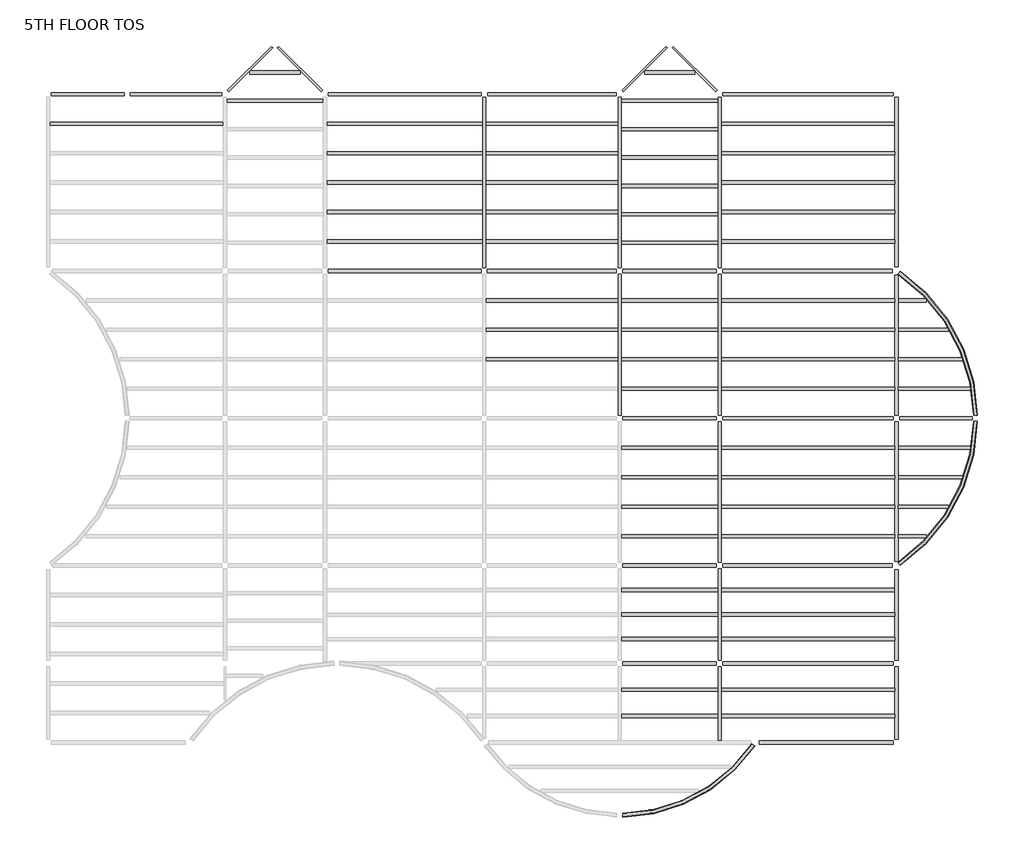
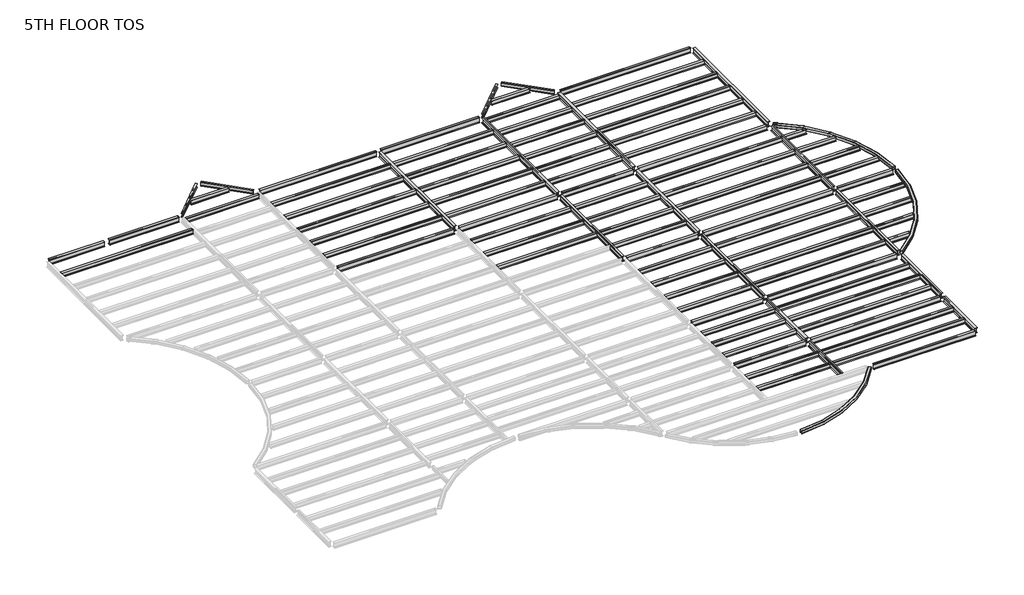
# One storey, part 2 of 2: 99 beams.
"""IFC4 building model written with IfcOpenShell, lengths in millimetres."""

from ifc_helpers import new_model, si_unit, origin, place, context, project, spatial, transform, mapped, element, save
from components import m_hss_square_hss203_2x203_2x9_5_28e91a4e, m_hss_square_hss203_2x203_2x9_5_f31329aa, m_hss_square_hss203_2x203_2x9_5_63507dff, ub_universal_beams_ub254x102x28_7812688d, ub_universal_beams_ub254x102x28_4a38c177, ub_universal_beams_ub305x165x40_c4d0385b, ub_universal_beams_ub305x165x40_19965e16, ub_universal_beams_ub305x165x40_d3abc31d, ub_universal_beams_ub305x165x40_0c73730f, ub_universal_beams_ub305x165x40_2a963f0c, ub_universal_beams_ub305x165x40_9ce7f2ee, ub_universal_beams_ub305x165x40_d184adfd, ub_universal_beams_ub305x165x40_bc7dc938, ub_universal_beams_ub305x165x40_b4233d25, ub_universal_beams_ub356x171x51_c708c058, ub_universal_beams_ub356x171x51_ef72dcdd, ub_universal_beams_ub356x171x51_10b3c54f, ub_universal_beams_ub356x171x51_4c9fd821, ub_universal_beams_ub356x171x51_d1a87c3c, ub_universal_beams_ub356x171x51_fa75724b, ub_universal_beams_ub356x171x51_68db896e, ub_universal_beams_ub356x171x51_c634c4a6, ub_universal_beams_ub356x171x51_995f1560, ub_universal_beams_ub356x171x51_dfc36663, ub_universal_beams_ub356x171x51_11d6b780, ub_universal_beams_ub356x171x51_76b2d20b, ub_universal_beams_ub356x171x51_145ecd4b, ub_universal_beams_ub356x171x51_c7dff8d2, ub_universal_beams_ub356x171x51_8a345439, ub_universal_beams_ub356x171x51_6da510e9, ub_universal_beams_ub356x171x51_e97f8d2e, ub_universal_beams_ub356x171x51_a38b99de, ub_universal_beams_ub356x171x51_d8f4cdde, ub_universal_beams_ub356x171x51_475301e6, ub_universal_beams_ub356x171x51_c03c70fb, ub_universal_beams_ub356x171x51_741bae58

model = new_model("IFC4")

# Units and contexts
model_context = context("Model", 3, world=origin())
ifc_project = project(units=[si_unit("LENGTHUNIT", "METRE", prefix="MILLI")], contexts=[model_context])

# Site, building, storey
site = spatial("IfcSite", under=ifc_project)
building = spatial("IfcBuilding", under=site)
storey = spatial("IfcBuildingStorey", under=building, Name="5TH FLOOR TOS", Elevation=22707.6)

# Beams
placement = place(None, origin())
m_hss_square_hss203_2x203_2x9_5_shape = m_hss_square_hss203_2x203_2x9_5_28e91a4e(model_context)
element("IfcBeam", 1, ObjectType="M_HSS Square : HSS203.2X203.2X9.5", at=placement, inside=storey, context=model_context, shape_type="MappedRepresentation", body=[
    mapped(m_hss_square_hss203_2x203_2x9_5_shape, transform((44027.575, 24539.575, 22606.1), x_axis=(0.8332810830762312, -0.5528495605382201, 0.0), y_axis=(0.5528495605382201, 0.8332810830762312, 0.0), z_axis=(0.0, 0.0, 1.0))),
])
m_hss_square_hss203_2x203_2x9_5_2_shape = m_hss_square_hss203_2x203_2x9_5_f31329aa(model_context)
element("IfcBeam", 2, ObjectType="M_HSS Square : HSS203.2X203.2X9.5", at=placement, inside=storey, context=model_context, shape_type="MappedRepresentation", body=[
    mapped(m_hss_square_hss203_2x203_2x9_5_2_shape, transform((44027.575, 9299.575, 22606.1), x_axis=(0.8332810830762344, 0.5528495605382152, 0.0), y_axis=(-0.5528495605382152, 0.8332810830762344, 0.0), z_axis=(0.0, 0.0, 1.0))),
])
m_hss_square_hss203_2x203_2x9_5_3_shape = m_hss_square_hss203_2x203_2x9_5_63507dff(model_context)
element("IfcBeam", 3, ObjectType="M_HSS Square : HSS203.2X203.2X9.5", at=placement, inside=storey, context=model_context, shape_type="MappedRepresentation", body=[
    mapped(m_hss_square_hss203_2x203_2x9_5_3_shape, transform((36716.575, 155.575, 22606.1), x_axis=(-0.5530174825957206, -0.8331696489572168, 0.0), y_axis=(0.8331696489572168, -0.5530174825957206, 0.0), z_axis=(0.0, 0.0, 1.0))),
])
ub_universal_beams_ub254x102x28_shape = ub_universal_beams_ub254x102x28_7812688d(model_context)
element("IfcBeam", 4, ObjectType="UB-Universal Beams : UB254x102x28", at=placement, inside=storey, context=model_context, shape_type="MappedRepresentation", body=[
    mapped(ub_universal_beams_ub254x102x28_shape, transform((10592.575, 34976.575, 22577.4), x_axis=(0.7071067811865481, 0.7071067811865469, 0.0), y_axis=(-0.7071067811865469, 0.7071067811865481, 0.0), z_axis=(0.0, 0.0, 1.0))),
])
element("IfcBeam", 5, ObjectType="UB-Universal Beams : UB254x102x28", at=placement, inside=storey, context=model_context, shape_type="MappedRepresentation", body=[
    mapped(ub_universal_beams_ub254x102x28_shape, transform((31004.575, 34976.575, 22577.4), x_axis=(0.7071067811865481, 0.7071067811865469, 0.0), y_axis=(-0.7071067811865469, 0.7071067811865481, 0.0), z_axis=(0.0, 0.0, 1.0))),
])
ub_universal_beams_ub254x102x28_2_shape = ub_universal_beams_ub254x102x28_4a38c177(model_context)
element("IfcBeam", 6, ObjectType="UB-Universal Beams : UB254x102x28", at=placement, inside=storey, context=model_context, shape_type="MappedRepresentation", body=[
    mapped(ub_universal_beams_ub254x102x28_2_shape, transform((13178.575, 34976.575, 22577.4), x_axis=(0.707106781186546, -0.707106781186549, 0.0), y_axis=(0.707106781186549, 0.707106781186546, 0.0), z_axis=(0.0, 0.0, 1.0))),
])
element("IfcBeam", 7, ObjectType="UB-Universal Beams : UB254x102x28", at=placement, inside=storey, context=model_context, shape_type="MappedRepresentation", body=[
    mapped(ub_universal_beams_ub254x102x28_2_shape, transform((33590.575, 34976.575, 22577.4), x_axis=(0.7071067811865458, -0.7071067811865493, 0.0), y_axis=(0.7071067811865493, 0.7071067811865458, 0.0), z_axis=(0.0, 0.0, 1.0))),
])
ub_universal_beams_ub305x165x40_shape = ub_universal_beams_ub305x165x40_c4d0385b(model_context)
element("IfcBeam", 8, ObjectType="UB-Universal Beams : UB305x165x40", at=placement, inside=storey, context=model_context, shape_type="MappedRepresentation", body=[
    mapped(ub_universal_beams_ub305x165x40_shape, transform((4727.575, 32159.575, 22555.9), x_axis=(1.0, 0.0, 0.0), y_axis=(0.0, 1.0, 0.0), z_axis=(0.0, 0.0, 1.0))),
])
element("IfcBeam", 9, ObjectType="UB-Universal Beams : UB305x165x40", at=placement, inside=storey, context=model_context, shape_type="MappedRepresentation", body=[
    mapped(ub_universal_beams_ub305x165x40_shape, transform((39455.575, 32159.575, 22555.9), x_axis=(1.0, 0.0, 0.0), y_axis=(0.0, 1.0, 0.0), z_axis=(0.0, 0.0, 1.0))),
])
element("IfcBeam", 10, ObjectType="UB-Universal Beams : UB305x165x40", at=placement, inside=storey, context=model_context, shape_type="MappedRepresentation", body=[
    mapped(ub_universal_beams_ub305x165x40_shape, transform((39455.575, 30635.575, 22555.9), x_axis=(1.0, 0.0, 0.0), y_axis=(0.0, 1.0, 0.0), z_axis=(0.0, 0.0, 1.0))),
])
element("IfcBeam", 11, ObjectType="UB-Universal Beams : UB305x165x40", at=placement, inside=storey, context=model_context, shape_type="MappedRepresentation", body=[
    mapped(ub_universal_beams_ub305x165x40_shape, transform((39455.575, 29111.575, 22555.9), x_axis=(1.0, 0.0, 0.0), y_axis=(0.0, 1.0, 0.0), z_axis=(0.0, 0.0, 1.0))),
])
element("IfcBeam", 12, ObjectType="UB-Universal Beams : UB305x165x40", at=placement, inside=storey, context=model_context, shape_type="MappedRepresentation", body=[
    mapped(ub_universal_beams_ub305x165x40_shape, transform((39455.575, 27587.575, 22555.9), x_axis=(1.0, 0.0, 0.0), y_axis=(0.0, 1.0, 0.0), z_axis=(0.0, 0.0, 1.0))),
])
element("IfcBeam", 13, ObjectType="UB-Universal Beams : UB305x165x40", at=placement, inside=storey, context=model_context, shape_type="MappedRepresentation", body=[
    mapped(ub_universal_beams_ub305x165x40_shape, transform((39455.575, 26063.575, 22555.9), x_axis=(1.0, 0.0, 0.0), y_axis=(0.0, 1.0, 0.0), z_axis=(0.0, 0.0, 1.0))),
])
element("IfcBeam", 14, ObjectType="UB-Universal Beams : UB305x165x40", at=placement, inside=storey, context=model_context, shape_type="MappedRepresentation", body=[
    mapped(ub_universal_beams_ub305x165x40_shape, transform((39455.575, 23015.575, 22555.9), x_axis=(1.0, 0.0, 0.0), y_axis=(0.0, 1.0, 0.0), z_axis=(0.0, 0.0, 1.0))),
])
element("IfcBeam", 15, ObjectType="UB-Universal Beams : UB305x165x40", at=placement, inside=storey, context=model_context, shape_type="MappedRepresentation", body=[
    mapped(ub_universal_beams_ub305x165x40_shape, transform((39455.575, 21491.575, 22555.9), x_axis=(1.0, 0.0, 0.0), y_axis=(0.0, 1.0, 0.0), z_axis=(0.0, 0.0, 1.0))),
])
element("IfcBeam", 16, ObjectType="UB-Universal Beams : UB305x165x40", at=placement, inside=storey, context=model_context, shape_type="MappedRepresentation", body=[
    mapped(ub_universal_beams_ub305x165x40_shape, transform((39455.575, 19967.575, 22555.9), x_axis=(1.0, 0.0, 0.0), y_axis=(0.0, 1.0, 0.0), z_axis=(0.0, 0.0, 1.0))),
])
element("IfcBeam", 17, ObjectType="UB-Universal Beams : UB305x165x40", at=placement, inside=storey, context=model_context, shape_type="MappedRepresentation", body=[
    mapped(ub_universal_beams_ub305x165x40_shape, transform((39455.575, 18443.575, 22555.9), x_axis=(1.0, 0.0, 0.0), y_axis=(0.0, 1.0, 0.0), z_axis=(0.0, 0.0, 1.0))),
])
element("IfcBeam", 18, ObjectType="UB-Universal Beams : UB305x165x40", at=placement, inside=storey, context=model_context, shape_type="MappedRepresentation", body=[
    mapped(ub_universal_beams_ub305x165x40_shape, transform((39455.575, 15395.575, 22555.9), x_axis=(1.0, 0.0, 0.0), y_axis=(0.0, 1.0, 0.0), z_axis=(0.0, 0.0, 1.0))),
])
element("IfcBeam", 19, ObjectType="UB-Universal Beams : UB305x165x40", at=placement, inside=storey, context=model_context, shape_type="MappedRepresentation", body=[
    mapped(ub_universal_beams_ub305x165x40_shape, transform((39455.575, 13871.575, 22555.9), x_axis=(1.0, 0.0, 0.0), y_axis=(0.0, 1.0, 0.0), z_axis=(0.0, 0.0, 1.0))),
])
element("IfcBeam", 20, ObjectType="UB-Universal Beams : UB305x165x40", at=placement, inside=storey, context=model_context, shape_type="MappedRepresentation", body=[
    mapped(ub_universal_beams_ub305x165x40_shape, transform((39455.575, 12347.575, 22555.9), x_axis=(1.0, 0.0, 0.0), y_axis=(0.0, 1.0, 0.0), z_axis=(0.0, 0.0, 1.0))),
])
element("IfcBeam", 21, ObjectType="UB-Universal Beams : UB305x165x40", at=placement, inside=storey, context=model_context, shape_type="MappedRepresentation", body=[
    mapped(ub_universal_beams_ub305x165x40_shape, transform((39455.575, 10823.575, 22555.9), x_axis=(1.0, 0.0, 0.0), y_axis=(0.0, 1.0, 0.0), z_axis=(0.0, 0.0, 1.0))),
])
element("IfcBeam", 22, ObjectType="UB-Universal Beams : UB305x165x40", at=placement, inside=storey, context=model_context, shape_type="MappedRepresentation", body=[
    mapped(ub_universal_beams_ub305x165x40_shape, transform((39455.575, 5508.325, 22555.9), x_axis=(-1.0, 0.0, 0.0), y_axis=(0.0, -1.0, 0.0), z_axis=(0.0, 0.0, 1.0))),
])
element("IfcBeam", 23, ObjectType="UB-Universal Beams : UB305x165x40", at=placement, inside=storey, context=model_context, shape_type="MappedRepresentation", body=[
    mapped(ub_universal_beams_ub305x165x40_shape, transform((39455.575, 6772.075, 22555.9), x_axis=(-1.0, 0.0, 0.0), y_axis=(0.0, -1.0, 0.0), z_axis=(0.0, 0.0, 1.0))),
])
element("IfcBeam", 24, ObjectType="UB-Universal Beams : UB305x165x40", at=placement, inside=storey, context=model_context, shape_type="MappedRepresentation", body=[
    mapped(ub_universal_beams_ub305x165x40_shape, transform((39455.575, 8035.825, 22555.9), x_axis=(-1.0, 0.0, 0.0), y_axis=(0.0, -1.0, 0.0), z_axis=(0.0, 0.0, 1.0))),
])
element("IfcBeam", 25, ObjectType="UB-Universal Beams : UB305x165x40", at=placement, inside=storey, context=model_context, shape_type="MappedRepresentation", body=[
    mapped(ub_universal_beams_ub305x165x40_shape, transform((39455.575, 1518.575, 22555.9), x_axis=(-1.0, 0.0, 0.0), y_axis=(0.0, -1.0, 0.0), z_axis=(0.0, 0.0, 1.0))),
])
element("IfcBeam", 26, ObjectType="UB-Universal Beams : UB305x165x40", at=placement, inside=storey, context=model_context, shape_type="MappedRepresentation", body=[
    mapped(ub_universal_beams_ub305x165x40_shape, transform((39455.575, 2881.575, 22555.9), x_axis=(-1.0, 0.0, 0.0), y_axis=(0.0, -1.0, 0.0), z_axis=(0.0, 0.0, 1.0))),
])
ub_universal_beams_ub305x165x40_2_shape = ub_universal_beams_ub305x165x40_19965e16(model_context)
element("IfcBeam", 27, ObjectType="UB-Universal Beams : UB305x165x40", at=placement, inside=storey, context=model_context, shape_type="MappedRepresentation", body=[
    mapped(ub_universal_beams_ub305x165x40_2_shape, transform((11885.575, 34803.325, 22555.9), x_axis=(1.0, 0.0, 0.0), y_axis=(0.0, 1.0, 0.0), z_axis=(0.0, 0.0, 1.0))),
])
element("IfcBeam", 28, ObjectType="UB-Universal Beams : UB305x165x40", at=placement, inside=storey, context=model_context, shape_type="MappedRepresentation", body=[
    mapped(ub_universal_beams_ub305x165x40_2_shape, transform((32297.575, 34803.325, 22555.9), x_axis=(1.0, 0.0, 0.0), y_axis=(0.0, 1.0, 0.0), z_axis=(0.0, 0.0, 1.0))),
])
ub_universal_beams_ub305x165x40_3_shape = ub_universal_beams_ub305x165x40_d3abc31d(model_context)
element("IfcBeam", 29, ObjectType="UB-Universal Beams : UB305x165x40", at=placement, inside=storey, context=model_context, shape_type="MappedRepresentation", body=[
    mapped(ub_universal_beams_ub305x165x40_3_shape, transform((11885.575, 33337.075, 22555.9), x_axis=(1.0, 0.0, 0.0), y_axis=(0.0, 1.0, 0.0), z_axis=(0.0, 0.0, 1.0))),
])
element("IfcBeam", 30, ObjectType="UB-Universal Beams : UB305x165x40", at=placement, inside=storey, context=model_context, shape_type="MappedRepresentation", body=[
    mapped(ub_universal_beams_ub305x165x40_3_shape, transform((32297.575, 33337.075, 22555.9), x_axis=(1.0, 0.0, 0.0), y_axis=(0.0, 1.0, 0.0), z_axis=(0.0, 0.0, 1.0))),
])
element("IfcBeam", 31, ObjectType="UB-Universal Beams : UB305x165x40", at=placement, inside=storey, context=model_context, shape_type="MappedRepresentation", body=[
    mapped(ub_universal_beams_ub305x165x40_3_shape, transform((32297.575, 31870.825, 22555.9), x_axis=(1.0, 0.0, 0.0), y_axis=(0.0, 1.0, 0.0), z_axis=(0.0, 0.0, 1.0))),
])
element("IfcBeam", 32, ObjectType="UB-Universal Beams : UB305x165x40", at=placement, inside=storey, context=model_context, shape_type="MappedRepresentation", body=[
    mapped(ub_universal_beams_ub305x165x40_3_shape, transform((32297.575, 30404.575, 22555.9), x_axis=(1.0, 0.0, 0.0), y_axis=(0.0, 1.0, 0.0), z_axis=(0.0, 0.0, 1.0))),
])
element("IfcBeam", 33, ObjectType="UB-Universal Beams : UB305x165x40", at=placement, inside=storey, context=model_context, shape_type="MappedRepresentation", body=[
    mapped(ub_universal_beams_ub305x165x40_3_shape, transform((32297.575, 28938.325, 22555.9), x_axis=(1.0, 0.0, 0.0), y_axis=(0.0, 1.0, 0.0), z_axis=(0.0, 0.0, 1.0))),
])
element("IfcBeam", 34, ObjectType="UB-Universal Beams : UB305x165x40", at=placement, inside=storey, context=model_context, shape_type="MappedRepresentation", body=[
    mapped(ub_universal_beams_ub305x165x40_3_shape, transform((32297.575, 27472.075, 22555.9), x_axis=(1.0, 0.0, 0.0), y_axis=(0.0, 1.0, 0.0), z_axis=(0.0, 0.0, 1.0))),
])
element("IfcBeam", 35, ObjectType="UB-Universal Beams : UB305x165x40", at=placement, inside=storey, context=model_context, shape_type="MappedRepresentation", body=[
    mapped(ub_universal_beams_ub305x165x40_3_shape, transform((32297.575, 26005.825, 22555.9), x_axis=(1.0, 0.0, 0.0), y_axis=(0.0, 1.0, 0.0), z_axis=(0.0, 0.0, 1.0))),
])
element("IfcBeam", 36, ObjectType="UB-Universal Beams : UB305x165x40", at=placement, inside=storey, context=model_context, shape_type="MappedRepresentation", body=[
    mapped(ub_universal_beams_ub305x165x40_3_shape, transform((32297.575, 1518.575, 22555.9), x_axis=(-1.0, 0.0, 0.0), y_axis=(0.0, -1.0, 0.0), z_axis=(0.0, 0.0, 1.0))),
])
element("IfcBeam", 37, ObjectType="UB-Universal Beams : UB305x165x40", at=placement, inside=storey, context=model_context, shape_type="MappedRepresentation", body=[
    mapped(ub_universal_beams_ub305x165x40_3_shape, transform((32297.575, 2881.575, 22555.9), x_axis=(-1.0, 0.0, 0.0), y_axis=(0.0, -1.0, 0.0), z_axis=(0.0, 0.0, 1.0))),
])
element("IfcBeam", 38, ObjectType="UB-Universal Beams : UB305x165x40", at=placement, inside=storey, context=model_context, shape_type="MappedRepresentation", body=[
    mapped(ub_universal_beams_ub305x165x40_3_shape, transform((32297.575, 5508.325, 22555.9), x_axis=(-1.0, 0.0, 0.0), y_axis=(0.0, -1.0, 0.0), z_axis=(0.0, 0.0, 1.0))),
])
element("IfcBeam", 39, ObjectType="UB-Universal Beams : UB305x165x40", at=placement, inside=storey, context=model_context, shape_type="MappedRepresentation", body=[
    mapped(ub_universal_beams_ub305x165x40_3_shape, transform((32297.575, 6772.075, 22555.9), x_axis=(-1.0, 0.0, 0.0), y_axis=(0.0, -1.0, 0.0), z_axis=(0.0, 0.0, 1.0))),
])
element("IfcBeam", 40, ObjectType="UB-Universal Beams : UB305x165x40", at=placement, inside=storey, context=model_context, shape_type="MappedRepresentation", body=[
    mapped(ub_universal_beams_ub305x165x40_3_shape, transform((32297.575, 8035.825, 22555.9), x_axis=(-1.0, 0.0, 0.0), y_axis=(0.0, -1.0, 0.0), z_axis=(0.0, 0.0, 1.0))),
])
element("IfcBeam", 41, ObjectType="UB-Universal Beams : UB305x165x40", at=placement, inside=storey, context=model_context, shape_type="MappedRepresentation", body=[
    mapped(ub_universal_beams_ub305x165x40_3_shape, transform((32297.575, 15395.575, 22555.9), x_axis=(1.0, 0.0, 0.0), y_axis=(0.0, 1.0, 0.0), z_axis=(0.0, 0.0, 1.0))),
])
element("IfcBeam", 42, ObjectType="UB-Universal Beams : UB305x165x40", at=placement, inside=storey, context=model_context, shape_type="MappedRepresentation", body=[
    mapped(ub_universal_beams_ub305x165x40_3_shape, transform((32297.575, 13871.575, 22555.9), x_axis=(1.0, 0.0, 0.0), y_axis=(0.0, 1.0, 0.0), z_axis=(0.0, 0.0, 1.0))),
])
element("IfcBeam", 43, ObjectType="UB-Universal Beams : UB305x165x40", at=placement, inside=storey, context=model_context, shape_type="MappedRepresentation", body=[
    mapped(ub_universal_beams_ub305x165x40_3_shape, transform((32297.575, 12347.575, 22555.9), x_axis=(1.0, 0.0, 0.0), y_axis=(0.0, 1.0, 0.0), z_axis=(0.0, 0.0, 1.0))),
])
element("IfcBeam", 44, ObjectType="UB-Universal Beams : UB305x165x40", at=placement, inside=storey, context=model_context, shape_type="MappedRepresentation", body=[
    mapped(ub_universal_beams_ub305x165x40_3_shape, transform((32297.575, 10823.575, 22555.9), x_axis=(1.0, 0.0, 0.0), y_axis=(0.0, 1.0, 0.0), z_axis=(0.0, 0.0, 1.0))),
])
element("IfcBeam", 45, ObjectType="UB-Universal Beams : UB305x165x40", at=placement, inside=storey, context=model_context, shape_type="MappedRepresentation", body=[
    mapped(ub_universal_beams_ub305x165x40_3_shape, transform((32297.575, 23015.575, 22555.9), x_axis=(1.0, 0.0, 0.0), y_axis=(0.0, 1.0, 0.0), z_axis=(0.0, 0.0, 1.0))),
])
element("IfcBeam", 46, ObjectType="UB-Universal Beams : UB305x165x40", at=placement, inside=storey, context=model_context, shape_type="MappedRepresentation", body=[
    mapped(ub_universal_beams_ub305x165x40_3_shape, transform((32297.575, 21491.575, 22555.9), x_axis=(1.0, 0.0, 0.0), y_axis=(0.0, 1.0, 0.0), z_axis=(0.0, 0.0, 1.0))),
])
element("IfcBeam", 47, ObjectType="UB-Universal Beams : UB305x165x40", at=placement, inside=storey, context=model_context, shape_type="MappedRepresentation", body=[
    mapped(ub_universal_beams_ub305x165x40_3_shape, transform((32297.575, 19967.575, 22555.9), x_axis=(1.0, 0.0, 0.0), y_axis=(0.0, 1.0, 0.0), z_axis=(0.0, 0.0, 1.0))),
])
element("IfcBeam", 48, ObjectType="UB-Universal Beams : UB305x165x40", at=placement, inside=storey, context=model_context, shape_type="MappedRepresentation", body=[
    mapped(ub_universal_beams_ub305x165x40_3_shape, transform((32297.575, 18443.575, 22555.9), x_axis=(1.0, 0.0, 0.0), y_axis=(0.0, 1.0, 0.0), z_axis=(0.0, 0.0, 1.0))),
])
ub_universal_beams_ub305x165x40_4_shape = ub_universal_beams_ub305x165x40_0c73730f(model_context)
element("IfcBeam", 49, ObjectType="UB-Universal Beams : UB305x165x40", at=placement, inside=storey, context=model_context, shape_type="MappedRepresentation", body=[
    mapped(ub_universal_beams_ub305x165x40_4_shape, transform((18591.075, 32159.575, 22555.9), x_axis=(1.0, 0.0, 0.0), y_axis=(0.0, 1.0, 0.0), z_axis=(0.0, 0.0, 1.0))),
])
element("IfcBeam", 50, ObjectType="UB-Universal Beams : UB305x165x40", at=placement, inside=storey, context=model_context, shape_type="MappedRepresentation", body=[
    mapped(ub_universal_beams_ub305x165x40_4_shape, transform((18591.075, 30635.575, 22555.9), x_axis=(1.0, 0.0, 0.0), y_axis=(0.0, 1.0, 0.0), z_axis=(0.0, 0.0, 1.0))),
])
element("IfcBeam", 51, ObjectType="UB-Universal Beams : UB305x165x40", at=placement, inside=storey, context=model_context, shape_type="MappedRepresentation", body=[
    mapped(ub_universal_beams_ub305x165x40_4_shape, transform((18591.075, 29111.575, 22555.9), x_axis=(1.0, 0.0, 0.0), y_axis=(0.0, 1.0, 0.0), z_axis=(0.0, 0.0, 1.0))),
])
element("IfcBeam", 52, ObjectType="UB-Universal Beams : UB305x165x40", at=placement, inside=storey, context=model_context, shape_type="MappedRepresentation", body=[
    mapped(ub_universal_beams_ub305x165x40_4_shape, transform((18591.075, 27587.575, 22555.9), x_axis=(1.0, 0.0, 0.0), y_axis=(0.0, 1.0, 0.0), z_axis=(0.0, 0.0, 1.0))),
])
element("IfcBeam", 53, ObjectType="UB-Universal Beams : UB305x165x40", at=placement, inside=storey, context=model_context, shape_type="MappedRepresentation", body=[
    mapped(ub_universal_beams_ub305x165x40_4_shape, transform((18591.075, 26063.575, 22555.9), x_axis=(1.0, 0.0, 0.0), y_axis=(0.0, 1.0, 0.0), z_axis=(0.0, 0.0, 1.0))),
])
ub_universal_beams_ub305x165x40_5_shape = ub_universal_beams_ub305x165x40_2a963f0c(model_context)
element("IfcBeam", 54, ObjectType="UB-Universal Beams : UB305x165x40", at=placement, inside=storey, context=model_context, shape_type="MappedRepresentation", body=[
    mapped(ub_universal_beams_ub305x165x40_5_shape, transform((26211.075, 32159.575, 22555.9), x_axis=(1.0, 0.0, 0.0), y_axis=(0.0, 1.0, 0.0), z_axis=(0.0, 0.0, 1.0))),
])
element("IfcBeam", 55, ObjectType="UB-Universal Beams : UB305x165x40", at=placement, inside=storey, context=model_context, shape_type="MappedRepresentation", body=[
    mapped(ub_universal_beams_ub305x165x40_5_shape, transform((26211.075, 30635.575, 22555.9), x_axis=(1.0, 0.0, 0.0), y_axis=(0.0, 1.0, 0.0), z_axis=(0.0, 0.0, 1.0))),
])
element("IfcBeam", 56, ObjectType="UB-Universal Beams : UB305x165x40", at=placement, inside=storey, context=model_context, shape_type="MappedRepresentation", body=[
    mapped(ub_universal_beams_ub305x165x40_5_shape, transform((26211.075, 29111.575, 22555.9), x_axis=(1.0, 0.0, 0.0), y_axis=(0.0, 1.0, 0.0), z_axis=(0.0, 0.0, 1.0))),
])
element("IfcBeam", 57, ObjectType="UB-Universal Beams : UB305x165x40", at=placement, inside=storey, context=model_context, shape_type="MappedRepresentation", body=[
    mapped(ub_universal_beams_ub305x165x40_5_shape, transform((26211.075, 27587.575, 22555.9), x_axis=(1.0, 0.0, 0.0), y_axis=(0.0, 1.0, 0.0), z_axis=(0.0, 0.0, 1.0))),
])
element("IfcBeam", 58, ObjectType="UB-Universal Beams : UB305x165x40", at=placement, inside=storey, context=model_context, shape_type="MappedRepresentation", body=[
    mapped(ub_universal_beams_ub305x165x40_5_shape, transform((26211.075, 26063.575, 22555.9), x_axis=(1.0, 0.0, 0.0), y_axis=(0.0, 1.0, 0.0), z_axis=(0.0, 0.0, 1.0))),
])
element("IfcBeam", 59, ObjectType="UB-Universal Beams : UB305x165x40", at=placement, inside=storey, context=model_context, shape_type="MappedRepresentation", body=[
    mapped(ub_universal_beams_ub305x165x40_5_shape, transform((26211.075, 23015.575, 22555.9), x_axis=(1.0, 0.0, 0.0), y_axis=(0.0, 1.0, 0.0), z_axis=(0.0, 0.0, 1.0))),
])
element("IfcBeam", 60, ObjectType="UB-Universal Beams : UB305x165x40", at=placement, inside=storey, context=model_context, shape_type="MappedRepresentation", body=[
    mapped(ub_universal_beams_ub305x165x40_5_shape, transform((26211.075, 21491.575, 22555.9), x_axis=(1.0, 0.0, 0.0), y_axis=(0.0, 1.0, 0.0), z_axis=(0.0, 0.0, 1.0))),
])
element("IfcBeam", 61, ObjectType="UB-Universal Beams : UB305x165x40", at=placement, inside=storey, context=model_context, shape_type="MappedRepresentation", body=[
    mapped(ub_universal_beams_ub305x165x40_5_shape, transform((26211.075, 19967.575, 22555.9), x_axis=(1.0, 0.0, 0.0), y_axis=(0.0, 1.0, 0.0), z_axis=(0.0, 0.0, 1.0))),
])
ub_universal_beams_ub305x165x40_6_shape = ub_universal_beams_ub305x165x40_9ce7f2ee(model_context)
element("IfcBeam", 62, ObjectType="UB-Universal Beams : UB305x165x40", at=placement, inside=storey, context=model_context, shape_type="MappedRepresentation", body=[
    mapped(ub_universal_beams_ub305x165x40_6_shape, transform((44907.9405309, 23015.575, 22555.9), x_axis=(1.0, 0.0, 0.0), y_axis=(0.0, 1.0, 0.0), z_axis=(0.0, 0.0, 1.0))),
])
element("IfcBeam", 63, ObjectType="UB-Universal Beams : UB305x165x40", at=placement, inside=storey, context=model_context, shape_type="MappedRepresentation", body=[
    mapped(ub_universal_beams_ub305x165x40_6_shape, transform((44907.9405309, 10823.575, 22555.9), x_axis=(1.0, 0.0, 0.0), y_axis=(0.0, 1.0, 0.0), z_axis=(0.0, 0.0, 1.0))),
])
ub_universal_beams_ub305x165x40_7_shape = ub_universal_beams_ub305x165x40_d184adfd(model_context)
element("IfcBeam", 64, ObjectType="UB-Universal Beams : UB305x165x40", at=placement, inside=storey, context=model_context, shape_type="MappedRepresentation", body=[
    mapped(ub_universal_beams_ub305x165x40_7_shape, transform((45459.5874928, 21491.575, 22555.9), x_axis=(1.0, 0.0, 0.0), y_axis=(0.0, 1.0, 0.0), z_axis=(0.0, 0.0, 1.0))),
])
element("IfcBeam", 65, ObjectType="UB-Universal Beams : UB305x165x40", at=placement, inside=storey, context=model_context, shape_type="MappedRepresentation", body=[
    mapped(ub_universal_beams_ub305x165x40_7_shape, transform((45459.5874928, 12347.575, 22555.9), x_axis=(1.0, 0.0, 0.0), y_axis=(0.0, 1.0, 0.0), z_axis=(0.0, 0.0, 1.0))),
])
ub_universal_beams_ub305x165x40_8_shape = ub_universal_beams_ub305x165x40_bc7dc938(model_context)
element("IfcBeam", 66, ObjectType="UB-Universal Beams : UB305x165x40", at=placement, inside=storey, context=model_context, shape_type="MappedRepresentation", body=[
    mapped(ub_universal_beams_ub305x165x40_8_shape, transform((45810.6153272, 19967.575, 22555.9), x_axis=(1.0, 0.0, 0.0), y_axis=(0.0, 1.0, 0.0), z_axis=(0.0, 0.0, 1.0))),
])
element("IfcBeam", 67, ObjectType="UB-Universal Beams : UB305x165x40", at=placement, inside=storey, context=model_context, shape_type="MappedRepresentation", body=[
    mapped(ub_universal_beams_ub305x165x40_8_shape, transform((45810.6153272, 13871.575, 22555.9), x_axis=(1.0, 0.0, 0.0), y_axis=(0.0, 1.0, 0.0), z_axis=(0.0, 0.0, 1.0))),
])
ub_universal_beams_ub305x165x40_9_shape = ub_universal_beams_ub305x165x40_b4233d25(model_context)
element("IfcBeam", 68, ObjectType="UB-Universal Beams : UB305x165x40", at=placement, inside=storey, context=model_context, shape_type="MappedRepresentation", body=[
    mapped(ub_universal_beams_ub305x165x40_9_shape, transform((46008.1318611, 18443.575, 22555.9), x_axis=(1.0, 0.0, 0.0), y_axis=(0.0, 1.0, 0.0), z_axis=(0.0, 0.0, 1.0))),
])
element("IfcBeam", 69, ObjectType="UB-Universal Beams : UB305x165x40", at=placement, inside=storey, context=model_context, shape_type="MappedRepresentation", body=[
    mapped(ub_universal_beams_ub305x165x40_9_shape, transform((46008.1318611, 15395.575, 22555.9), x_axis=(1.0, 0.0, 0.0), y_axis=(0.0, 1.0, 0.0), z_axis=(0.0, 0.0, 1.0))),
])
ub_universal_beams_ub356x171x51_shape = ub_universal_beams_ub356x171x51_c708c058(model_context)
element("IfcBeam", 70, ObjectType="UB-Universal Beams : UB356x171x51", at=placement, inside=storey, context=model_context, shape_type="MappedRepresentation", body=[
    mapped(ub_universal_beams_ub356x171x51_shape, transform((2200.075, 33683.575, 22530.1), x_axis=(1.0, 0.0, 0.0), y_axis=(0.0, 1.0, 0.0), z_axis=(0.0, 0.0, 1.0))),
])
ub_universal_beams_ub356x171x51_2_shape = ub_universal_beams_ub356x171x51_ef72dcdd(model_context)
element("IfcBeam", 71, ObjectType="UB-Universal Beams : UB356x171x51", at=placement, inside=storey, context=model_context, shape_type="MappedRepresentation", body=[
    mapped(ub_universal_beams_ub356x171x51_2_shape, transform((6772.075, 33683.575, 22530.1), x_axis=(1.0, 0.0, 0.0), y_axis=(0.0, 1.0, 0.0), z_axis=(0.0, 0.0, 1.0))),
])
element("IfcBeam", 72, ObjectType="UB-Universal Beams : UB356x171x51", at=placement, inside=storey, context=model_context, shape_type="MappedRepresentation", body=[
    mapped(ub_universal_beams_ub356x171x51_2_shape, transform((34883.575, 6772.075, 22530.1), x_axis=(0.0, -1.0, 0.0), y_axis=(1.0, 0.0, 0.0), z_axis=(0.0, 0.0, 1.0))),
])
ub_universal_beams_ub356x171x51_3_shape = ub_universal_beams_ub356x171x51_10b3c54f(model_context)
element("IfcBeam", 73, ObjectType="UB-Universal Beams : UB356x171x51", at=placement, inside=storey, context=model_context, shape_type="MappedRepresentation", body=[
    mapped(ub_universal_beams_ub356x171x51_3_shape, transform((18591.075, 33683.575, 22530.1), x_axis=(1.0, 0.0, 0.0), y_axis=(0.0, 1.0, 0.0), z_axis=(0.0, 0.0, 1.0))),
])
ub_universal_beams_ub356x171x51_4_shape = ub_universal_beams_ub356x171x51_4c9fd821(model_context)
element("IfcBeam", 74, ObjectType="UB-Universal Beams : UB356x171x51", at=placement, inside=storey, context=model_context, shape_type="MappedRepresentation", body=[
    mapped(ub_universal_beams_ub356x171x51_4_shape, transform((26211.075, 33683.575, 22530.1), x_axis=(1.0, 0.0, 0.0), y_axis=(0.0, 1.0, 0.0), z_axis=(0.0, 0.0, 1.0))),
])
ub_universal_beams_ub356x171x51_5_shape = ub_universal_beams_ub356x171x51_d1a87c3c(model_context)
element("IfcBeam", 75, ObjectType="UB-Universal Beams : UB356x171x51", at=placement, inside=storey, context=model_context, shape_type="MappedRepresentation", body=[
    mapped(ub_universal_beams_ub356x171x51_5_shape, transform((39455.575, 33683.575, 22530.1), x_axis=(1.0, 0.0, 0.0), y_axis=(0.0, 1.0, 0.0), z_axis=(0.0, 0.0, 1.0))),
])
ub_universal_beams_ub356x171x51_6_shape = ub_universal_beams_ub356x171x51_fa75724b(model_context)
element("IfcBeam", 76, ObjectType="UB-Universal Beams : UB356x171x51", at=placement, inside=storey, context=model_context, shape_type="MappedRepresentation", body=[
    mapped(ub_universal_beams_ub356x171x51_6_shape, transform((44027.575, 29111.575, 22530.1), x_axis=(0.0, -1.0, 0.0), y_axis=(1.0, 0.0, 0.0), z_axis=(0.0, 0.0, 1.0))),
])
ub_universal_beams_ub356x171x51_7_shape = ub_universal_beams_ub356x171x51_68db896e(model_context)
element("IfcBeam", 77, ObjectType="UB-Universal Beams : UB356x171x51", at=placement, inside=storey, context=model_context, shape_type="MappedRepresentation", body=[
    mapped(ub_universal_beams_ub356x171x51_7_shape, transform((44027.575, 6772.075, 22530.1), x_axis=(0.0, -1.0, 0.0), y_axis=(1.0, 0.0, 0.0), z_axis=(0.0, 0.0, 1.0))),
])
ub_universal_beams_ub356x171x51_8_shape = ub_universal_beams_ub356x171x51_c634c4a6(model_context)
element("IfcBeam", 78, ObjectType="UB-Universal Beams : UB356x171x51", at=placement, inside=storey, context=model_context, shape_type="MappedRepresentation", body=[
    mapped(ub_universal_beams_ub356x171x51_8_shape, transform((44027.575, 2200.075, 22530.1), x_axis=(0.0, -1.0, 0.0), y_axis=(1.0, 0.0, 0.0), z_axis=(0.0, 0.0, 1.0))),
])
ub_universal_beams_ub356x171x51_9_shape = ub_universal_beams_ub356x171x51_995f1560(model_context)
element("IfcBeam", 79, ObjectType="UB-Universal Beams : UB356x171x51", at=placement, inside=storey, context=model_context, shape_type="MappedRepresentation", body=[
    mapped(ub_universal_beams_ub356x171x51_9_shape, transform((40372.075, 155.575, 22530.1), x_axis=(-1.0, 0.0, 0.0), y_axis=(0.0, -1.0, 0.0), z_axis=(0.0, 0.0, 1.0))),
])
ub_universal_beams_ub356x171x51_10_shape = ub_universal_beams_ub356x171x51_dfc36663(model_context)
element("IfcBeam", 80, ObjectType="UB-Universal Beams : UB356x171x51", at=placement, inside=storey, context=model_context, shape_type="MappedRepresentation", body=[
    mapped(ub_universal_beams_ub356x171x51_10_shape, transform((46072.075, 16919.575, 22530.1), x_axis=(1.0, 0.0, 0.0), y_axis=(0.0, 1.0, 0.0), z_axis=(0.0, 0.0, 1.0))),
])
ub_universal_beams_ub356x171x51_11_shape = ub_universal_beams_ub356x171x51_11d6b780(model_context)
element("IfcBeam", 81, ObjectType="UB-Universal Beams : UB356x171x51", at=placement, inside=storey, context=model_context, shape_type="MappedRepresentation", body=[
    mapped(ub_universal_beams_ub356x171x51_11_shape, transform((32297.575, 24539.575, 22530.1), x_axis=(1.0, 0.0, 0.0), y_axis=(0.0, 1.0, 0.0), z_axis=(0.0, 0.0, 1.0))),
])
element("IfcBeam", 82, ObjectType="UB-Universal Beams : UB356x171x51", at=placement, inside=storey, context=model_context, shape_type="MappedRepresentation", body=[
    mapped(ub_universal_beams_ub356x171x51_11_shape, transform((32297.575, 9299.575, 22530.1), x_axis=(-1.0, 0.0, 0.0), y_axis=(0.0, -1.0, 0.0), z_axis=(0.0, 0.0, 1.0))),
])
element("IfcBeam", 83, ObjectType="UB-Universal Beams : UB356x171x51", at=placement, inside=storey, context=model_context, shape_type="MappedRepresentation", body=[
    mapped(ub_universal_beams_ub356x171x51_11_shape, transform((32297.575, 16919.575, 22530.1), x_axis=(1.0, 0.0, 0.0), y_axis=(0.0, 1.0, 0.0), z_axis=(0.0, 0.0, 1.0))),
])
element("IfcBeam", 84, ObjectType="UB-Universal Beams : UB356x171x51", at=placement, inside=storey, context=model_context, shape_type="MappedRepresentation", body=[
    mapped(ub_universal_beams_ub356x171x51_11_shape, transform((32297.575, 4244.575, 22530.1), x_axis=(-1.0, 0.0, 0.0), y_axis=(0.0, -1.0, 0.0), z_axis=(0.0, 0.0, 1.0))),
])
ub_universal_beams_ub356x171x51_12_shape = ub_universal_beams_ub356x171x51_76b2d20b(model_context)
element("IfcBeam", 85, ObjectType="UB-Universal Beams : UB356x171x51", at=placement, inside=storey, context=model_context, shape_type="MappedRepresentation", body=[
    mapped(ub_universal_beams_ub356x171x51_12_shape, transform((18591.075, 24539.575, 22530.1), x_axis=(1.0, 0.0, 0.0), y_axis=(0.0, 1.0, 0.0), z_axis=(0.0, 0.0, 1.0))),
])
ub_universal_beams_ub356x171x51_13_shape = ub_universal_beams_ub356x171x51_145ecd4b(model_context)
element("IfcBeam", 86, ObjectType="UB-Universal Beams : UB356x171x51", at=placement, inside=storey, context=model_context, shape_type="MappedRepresentation", body=[
    mapped(ub_universal_beams_ub356x171x51_13_shape, transform((26211.075, 24539.575, 22530.1), x_axis=(1.0, 0.0, 0.0), y_axis=(0.0, 1.0, 0.0), z_axis=(0.0, 0.0, 1.0))),
])
ub_universal_beams_ub356x171x51_14_shape = ub_universal_beams_ub356x171x51_c7dff8d2(model_context)
element("IfcBeam", 87, ObjectType="UB-Universal Beams : UB356x171x51", at=placement, inside=storey, context=model_context, shape_type="MappedRepresentation", body=[
    mapped(ub_universal_beams_ub356x171x51_14_shape, transform((39455.575, 24539.575, 22530.1), x_axis=(1.0, 0.0, 0.0), y_axis=(0.0, 1.0, 0.0), z_axis=(0.0, 0.0, 1.0))),
])
ub_universal_beams_ub356x171x51_15_shape = ub_universal_beams_ub356x171x51_8a345439(model_context)
element("IfcBeam", 88, ObjectType="UB-Universal Beams : UB356x171x51", at=placement, inside=storey, context=model_context, shape_type="MappedRepresentation", body=[
    mapped(ub_universal_beams_ub356x171x51_15_shape, transform((44027.575, 20729.575, 22530.1), x_axis=(0.0, -1.0, 0.0), y_axis=(1.0, 0.0, 0.0), z_axis=(0.0, 0.0, 1.0))),
])
ub_universal_beams_ub356x171x51_16_shape = ub_universal_beams_ub356x171x51_6da510e9(model_context)
element("IfcBeam", 89, ObjectType="UB-Universal Beams : UB356x171x51", at=placement, inside=storey, context=model_context, shape_type="MappedRepresentation", body=[
    mapped(ub_universal_beams_ub356x171x51_16_shape, transform((44027.575, 13109.575, 22530.1), x_axis=(0.0, -1.0, 0.0), y_axis=(1.0, 0.0, 0.0), z_axis=(0.0, 0.0, 1.0))),
])
ub_universal_beams_ub356x171x51_17_shape = ub_universal_beams_ub356x171x51_e97f8d2e(model_context)
element("IfcBeam", 90, ObjectType="UB-Universal Beams : UB356x171x51", at=placement, inside=storey, context=model_context, shape_type="MappedRepresentation", body=[
    mapped(ub_universal_beams_ub356x171x51_17_shape, transform((39455.575, 9299.575, 22530.1), x_axis=(-1.0, 0.0, 0.0), y_axis=(0.0, -1.0, 0.0), z_axis=(0.0, 0.0, 1.0))),
])
ub_universal_beams_ub356x171x51_18_shape = ub_universal_beams_ub356x171x51_a38b99de(model_context)
element("IfcBeam", 91, ObjectType="UB-Universal Beams : UB356x171x51", at=placement, inside=storey, context=model_context, shape_type="MappedRepresentation", body=[
    mapped(ub_universal_beams_ub356x171x51_18_shape, transform((34883.575, 20729.575, 22530.1), x_axis=(0.0, -1.0, 0.0), y_axis=(1.0, 0.0, 0.0), z_axis=(0.0, 0.0, 1.0))),
])
element("IfcBeam", 92, ObjectType="UB-Universal Beams : UB356x171x51", at=placement, inside=storey, context=model_context, shape_type="MappedRepresentation", body=[
    mapped(ub_universal_beams_ub356x171x51_18_shape, transform((34883.575, 13109.575, 22530.1), x_axis=(0.0, -1.0, 0.0), y_axis=(1.0, 0.0, 0.0), z_axis=(0.0, 0.0, 1.0))),
])
element("IfcBeam", 93, ObjectType="UB-Universal Beams : UB356x171x51", at=placement, inside=storey, context=model_context, shape_type="MappedRepresentation", body=[
    mapped(ub_universal_beams_ub356x171x51_18_shape, transform((29711.575, 20729.575, 22530.1), x_axis=(0.0, 1.0, 0.0), y_axis=(-1.0, 0.0, 0.0), z_axis=(0.0, 0.0, 1.0))),
])
ub_universal_beams_ub356x171x51_19_shape = ub_universal_beams_ub356x171x51_d8f4cdde(model_context)
element("IfcBeam", 94, ObjectType="UB-Universal Beams : UB356x171x51", at=placement, inside=storey, context=model_context, shape_type="MappedRepresentation", body=[
    mapped(ub_universal_beams_ub356x171x51_19_shape, transform((29711.575, 29111.575, 22530.1), x_axis=(0.0, 1.0, 0.0), y_axis=(-1.0, 0.0, 0.0), z_axis=(0.0, 0.0, 1.0))),
])
ub_universal_beams_ub356x171x51_20_shape = ub_universal_beams_ub356x171x51_475301e6(model_context)
element("IfcBeam", 95, ObjectType="UB-Universal Beams : UB356x171x51", at=placement, inside=storey, context=model_context, shape_type="MappedRepresentation", body=[
    mapped(ub_universal_beams_ub356x171x51_20_shape, transform((39455.575, 16919.575, 22530.1), x_axis=(1.0, 0.0, 0.0), y_axis=(0.0, 1.0, 0.0), z_axis=(0.0, 0.0, 1.0))),
])
element("IfcBeam", 96, ObjectType="UB-Universal Beams : UB356x171x51", at=placement, inside=storey, context=model_context, shape_type="MappedRepresentation", body=[
    mapped(ub_universal_beams_ub356x171x51_20_shape, transform((39455.575, 4244.575, 22530.1), x_axis=(-1.0, 0.0, 0.0), y_axis=(0.0, -1.0, 0.0), z_axis=(0.0, 0.0, 1.0))),
])
ub_universal_beams_ub356x171x51_21_shape = ub_universal_beams_ub356x171x51_c03c70fb(model_context)
element("IfcBeam", 97, ObjectType="UB-Universal Beams : UB356x171x51", at=placement, inside=storey, context=model_context, shape_type="MappedRepresentation", body=[
    mapped(ub_universal_beams_ub356x171x51_21_shape, transform((34883.575, 29111.575, 22530.1), x_axis=(0.0, -1.0, 0.0), y_axis=(1.0, 0.0, 0.0), z_axis=(0.0, 0.0, 1.0))),
])
element("IfcBeam", 98, ObjectType="UB-Universal Beams : UB356x171x51", at=placement, inside=storey, context=model_context, shape_type="MappedRepresentation", body=[
    mapped(ub_universal_beams_ub356x171x51_21_shape, transform((22710.575, 29111.575, 22530.1), x_axis=(0.0, -1.0, 0.0), y_axis=(1.0, 0.0, 0.0), z_axis=(0.0, 0.0, 1.0))),
])
ub_universal_beams_ub356x171x51_22_shape = ub_universal_beams_ub356x171x51_741bae58(model_context)
element("IfcBeam", 99, ObjectType="UB-Universal Beams : UB356x171x51", at=placement, inside=storey, context=model_context, shape_type="MappedRepresentation", body=[
    mapped(ub_universal_beams_ub356x171x51_22_shape, transform((34883.575, 2200.075, 22530.1), x_axis=(0.0, -1.0, 0.0), y_axis=(1.0, 0.0, 0.0), z_axis=(0.0, 0.0, 1.0))),
])

save(model, "model.ifc")
